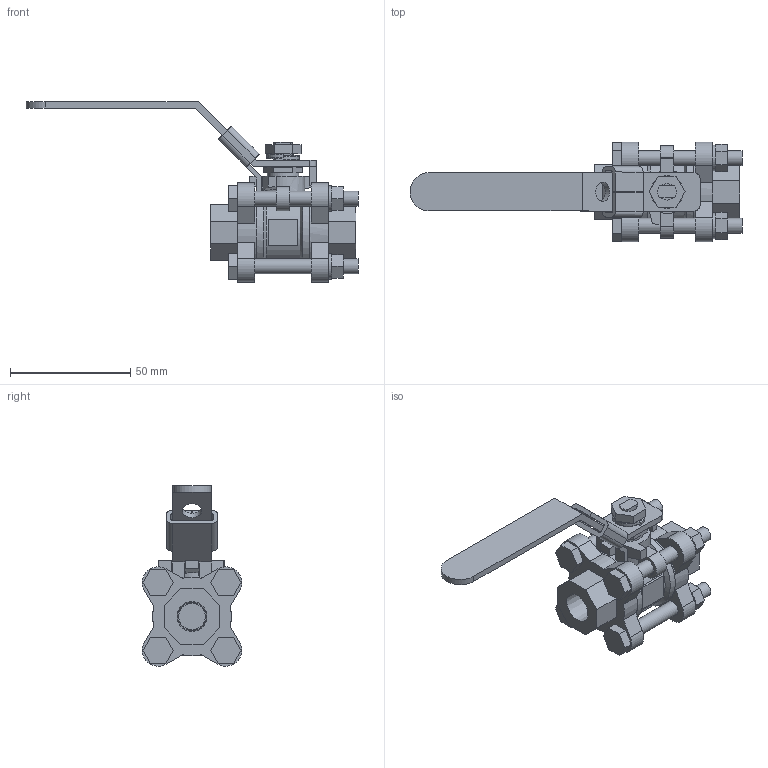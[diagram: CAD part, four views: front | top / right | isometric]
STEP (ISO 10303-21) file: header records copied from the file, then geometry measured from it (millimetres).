
FILE_DESCRIPTION((' '),'2;1');
FILE_NAME('N:\Technical Support\Private\Jomar Valve CAD\Ball Valves\CS and SS\1000N-4B\Threaded\.25 T-CS[SS]-1000N-4B (500-401 [500-301])FusionCopy.stp.step','2017-05-25T16:41:33',(' '),(' '),' ','ACIS',' ');
FILE_SCHEMA(('CONFIG_CONTROL_DESIGN'));
Length unit declared in the file: inch
Products named in the file (22): N:\Technical Support\Private\Jomar Valve CAD\Ball Valves\CS and SS\1000N-4B\Threaded\.25 T-CS[SS]-1000N-4B (500-401 [500-301])FusionCopy.stp.step; Body1; Body2; Body3; Body4; Body5; Body6; Body7; Body8; Body9; Body10; Body11; Body12; Body13; Body14; Body15; Body16; Body17; Body18; Body19; Body20; Body21
Assembly tree (21 placements, depth 2):
  N:\Technical Support\Private\Jomar Valve CAD\Ball Valves\CS and SS\1000N-4B\Threaded\.25 T-CS[SS]-1000N-4B (500-401 [500-301])FusionCopy.stp.step
    Body1
    Body2
    Body3
    Body4
    Body5
    Body6
    Body7
    Body8
    Body9
    Body10
    Body11
    Body12
    Body13
    Body14
    Body15
    Body16
    Body17
    Body18
    Body19
    Body20
    Body21
Bounding box: 138.23 x 41.41 x 75.15 mm (x, y, z)
Volume: 62082.1 mm3; surface area: 33332.1 mm2
Topology: 21 solids, 21 shells, 321 faces, 799 edges, 529 vertices
Faces by surface type: plane 154, bspline 107, cylinder 44, cone 12, torus 4
Full cylindrical faces by diameter (mm): 5.156 x2, 6.223 x2, 6.604 x4, 6.731 x2, 6.858 x1, 7.112 x1, 8.128 x1, 8.89 x1, 9.271 x1, 10.668 x2, 11.024 x1, 13.081 x1, 32.766 x2
Entity records: 12838 total; most frequent: CARTESIAN_POINT 2378, ORIENTED_EDGE 1492, DIRECTION 1429, EDGE_CURVE 746, VECTOR 531, LINE 531, VERTEX_POINT 516, AXIS2_PLACEMENT_3D 449
